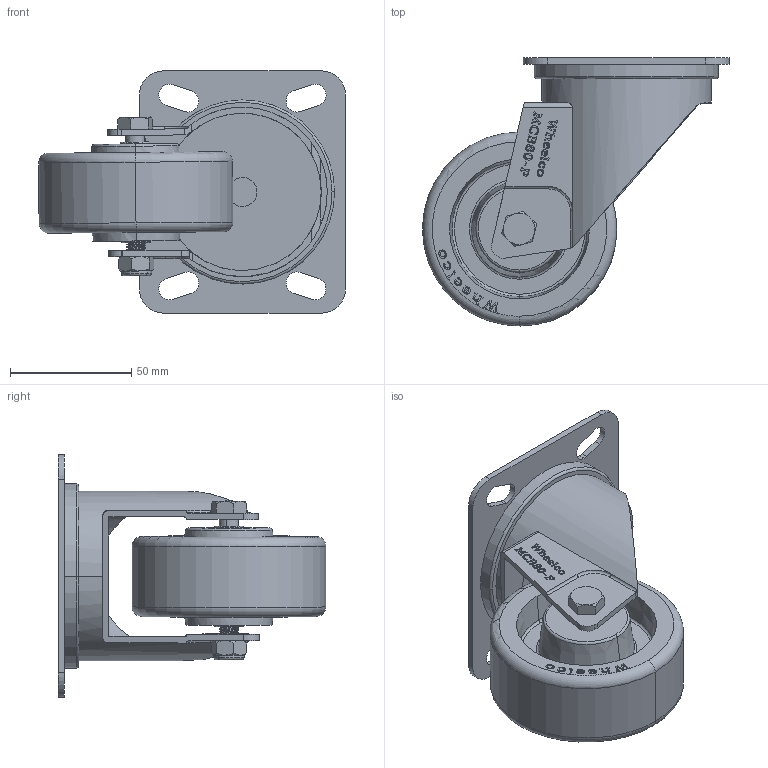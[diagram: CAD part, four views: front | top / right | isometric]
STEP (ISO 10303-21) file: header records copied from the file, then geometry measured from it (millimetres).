
FILE_DESCRIPTION (( 'STEP AP214' ), '1' );
FILE_NAME ('MDU80-P.step', '2024-01-21T22:17:48', ( '' ), ( '' ), 'SwSTEP 2.0', 'SolidWorks 2022', '' );
FILE_SCHEMA (( 'AUTOMOTIVE_DESIGN' ));
Length unit declared in the file: millimetre
Products named in the file (7): MCU80; MDU80-P; MC80-P; SP12-8-41-SS; 100X85 ANGLED; M8x55; M8Nyloc
Assembly tree (6 placements, depth 2):
  MDU80-P
    MC80-P
    M8Nyloc
    M8x55
    SP12-8-41-SS
    100X85 ANGLED
    MCU80
Bounding box: 126.6 x 110.5 x 100 mm (x, y, z)
Volume: 197347.4 mm3; surface area: 80843.7 mm2
Topology: 6 solids, 6 shells, 766 faces, 2065 edges, 1363 vertices
Faces by surface type: plane 368, bspline 214, cylinder 130, cone 28, torus 24, sphere 2
Entity records: 40841 total; most frequent: CARTESIAN_POINT 22609, ORIENTED_EDGE 4130, DIRECTION 2787, EDGE_CURVE 2065, VERTEX_POINT 1363, LINE 1247, VECTOR 1247, EDGE_LOOP 838
